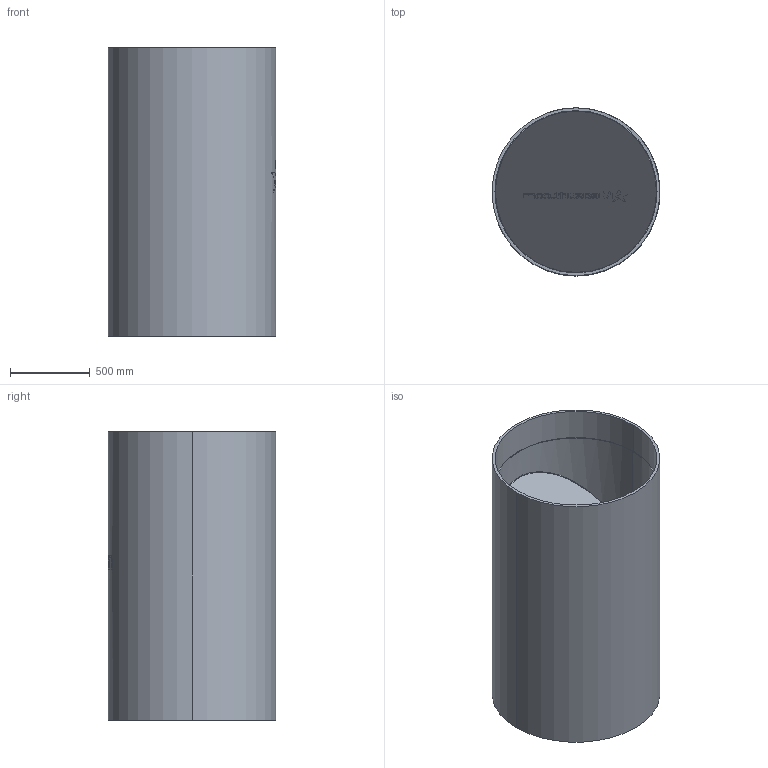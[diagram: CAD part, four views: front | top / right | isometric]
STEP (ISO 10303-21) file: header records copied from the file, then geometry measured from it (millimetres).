
FILE_DESCRIPTION (( 'STEP AP214' ), '1' );
FILE_NAME ('CF-IL-G5-S1050-NN-316-IDP.STEP', '2023-03-21T12:44:12', ( '' ), ( '' ), 'SwSTEP 2.0', 'SolidWorks 2022', '' );
FILE_SCHEMA (( 'AUTOMOTIVE_DESIGN' ));
Length unit declared in the file: millimetre
Products named in the file (3): CF-IL-G5-S1050-NN-316-IDP_CM-0100-B; Clamp- 1050_1050; CF-IL-G5-S1050-NN-316-IDP
Assembly tree (3 placements, depth 2):
  CF-IL-G5-S1050-NN-316-IDP
    CF-IL-G5-S1050-NN-316-IDP_CM-0100-B
    Clamp- 1050_1050  x2
Bounding box: 1050.49 x 1050.5 x 1804 mm (x, y, z)
Volume: 126981346.1 mm3; surface area: 15116869.6 mm2
Topology: 21 solids, 21 shells, 2579 faces, 6813 edges, 4315 vertices
Faces by surface type: plane 912, bspline 672, cone 540, cylinder 455
Entity records: 87552 total; most frequent: CARTESIAN_POINT 27404, ORIENTED_EDGE 11080, DIRECTION 6201, EDGE_CURVE 5540, VERTEX_POINT 3593, B_SPLINE_CURVE_WITH_KNOTS 2493, LINE 2483, VECTOR 2483
